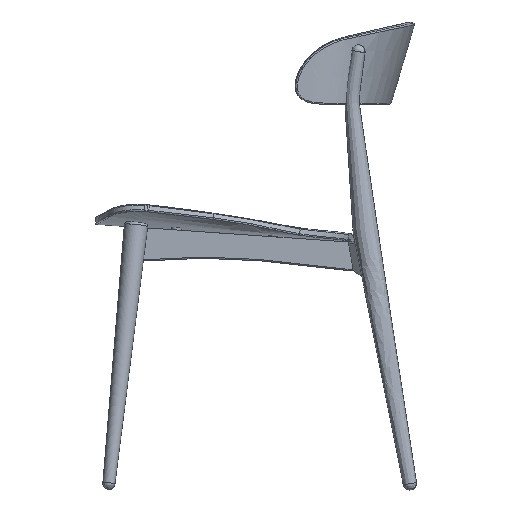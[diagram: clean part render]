
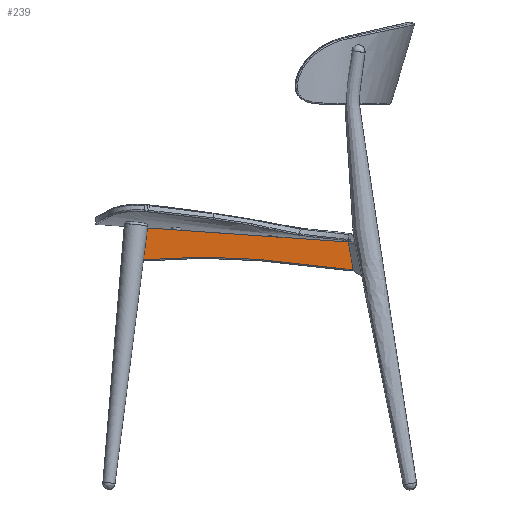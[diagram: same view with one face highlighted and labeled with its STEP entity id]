
A CAD part, left-side view. The second image highlights one B-rep face of the part: STEP entity #239.
In plain terms, the highlighted planar face has unit normal (-1, 0, 0).
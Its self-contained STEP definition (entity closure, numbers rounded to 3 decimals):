
#30=PLANE($,#4218);
#239=ADVANCED_FACE($,(#498),#30,.T.);
#498=FACE_OUTER_BOUND($,#757,.T.);
#757=EDGE_LOOP($,(#1605,#1606,#1607,#1608,#1609,#1610,#1611,#1612));
#1605=ORIENTED_EDGE($,*,*,#2539,.T.);
#1606=ORIENTED_EDGE($,*,*,#2540,.T.);
#1607=ORIENTED_EDGE($,*,*,#2541,.T.);
#1608=ORIENTED_EDGE($,*,*,#2542,.T.);
#1609=ORIENTED_EDGE($,*,*,#2538,.F.);
#1610=ORIENTED_EDGE($,*,*,#2543,.T.);
#1611=ORIENTED_EDGE($,*,*,#2544,.T.);
#1612=ORIENTED_EDGE($,*,*,#2545,.T.);
#2538=EDGE_CURVE($,#3056,#3053,#3940,.T.);
#2539=EDGE_CURVE($,#3057,#3058,#3941,.T.);
#2540=EDGE_CURVE($,#3058,#3059,#3942,.T.);
#2541=EDGE_CURVE($,#3059,#3060,#3576,.T.);
#2542=EDGE_CURVE($,#3060,#3053,#3577,.T.);
#2543=EDGE_CURVE($,#3056,#3061,#3943,.T.);
#2544=EDGE_CURVE($,#3061,#3062,#3944,.T.);
#2545=EDGE_CURVE($,#3062,#3057,#3945,.T.);
#3053=VERTEX_POINT($,#40107);
#3056=VERTEX_POINT($,#40110);
#3057=VERTEX_POINT($,#40111);
#3058=VERTEX_POINT($,#40112);
#3059=VERTEX_POINT($,#40113);
#3060=VERTEX_POINT($,#40114);
#3061=VERTEX_POINT($,#40115);
#3062=VERTEX_POINT($,#40116);
#3576=(
BOUNDED_CURVE()
B_SPLINE_CURVE(2,(#39662,#39663,#39664),.UNSPECIFIED.,.F.,.F.)
B_SPLINE_CURVE_WITH_KNOTS((3,3),(0.,184.043),.UNSPECIFIED.)
CURVE()
GEOMETRIC_REPRESENTATION_ITEM()
RATIONAL_B_SPLINE_CURVE((1.,0.996,1.))
REPRESENTATION_ITEM($)
);
#3577=(
BOUNDED_CURVE()
B_SPLINE_CURVE(2,(#39665,#39666,#39667),.UNSPECIFIED.,.F.,.F.)
B_SPLINE_CURVE_WITH_KNOTS((3,3),(0.,148.894),.UNSPECIFIED.)
CURVE()
GEOMETRIC_REPRESENTATION_ITEM()
RATIONAL_B_SPLINE_CURVE((1.,1.,1.))
REPRESENTATION_ITEM($)
);
#3940=B_SPLINE_CURVE_WITH_KNOTS($,1,(#39656,#39657),.UNSPECIFIED.,.F.,.F.,
(2,2),(-3.493,0.),.UNSPECIFIED.);
#3941=B_SPLINE_CURVE_WITH_KNOTS($,1,(#39658,#39659),.UNSPECIFIED.,.F.,.F.,
(2,2),(-51.207,0.),.UNSPECIFIED.);
#3942=B_SPLINE_CURVE_WITH_KNOTS($,1,(#39660,#39661),.UNSPECIFIED.,.F.,.F.,
(2,2),(0.,3.324),.UNSPECIFIED.);
#3943=B_SPLINE_CURVE_WITH_KNOTS($,3,(#39668,#39669,#39670,#39671),.UNSPECIFIED.,
.F.,.F.,(4,4),(0.,0.),.UNSPECIFIED.);
#3944=B_SPLINE_CURVE_WITH_KNOTS($,1,(#39672,#39673),.UNSPECIFIED.,.F.,.F.,
(2,2),(0.,45.276),.UNSPECIFIED.);
#3945=B_SPLINE_CURVE_WITH_KNOTS($,1,(#39674,#39675),.UNSPECIFIED.,.F.,.F.,
(2,2),(-327.928,0.),.UNSPECIFIED.);
#4218=AXIS2_PLACEMENT_3D($,#39900,#4265,$);
#4265=DIRECTION($,(-1.,0.,0.));
#39656=CARTESIAN_POINT($,(-126.,-394.846,354.766));
#39657=CARTESIAN_POINT($,(-126.,-391.361,355.009));
#39658=CARTESIAN_POINT($,(-126.,-59.831,422.402));
#39659=CARTESIAN_POINT($,(-126.,-56.259,371.32));
#39660=CARTESIAN_POINT($,(-126.,-56.259,371.32));
#39661=CARTESIAN_POINT($,(-126.,-59.575,371.088));
#39662=CARTESIAN_POINT($,(-126.,-59.575,371.088));
#39663=CARTESIAN_POINT($,(-126.,-151.468,379.193));
#39664=CARTESIAN_POINT($,(-126.,-243.389,371.399));
#39665=CARTESIAN_POINT($,(-126.,-243.389,371.399));
#39666=CARTESIAN_POINT($,(-126.,-317.586,365.108));
#39667=CARTESIAN_POINT($,(-126.,-391.361,355.009));
#39668=CARTESIAN_POINT($,(-126.,-394.846,354.766));
#39669=CARTESIAN_POINT($,(-126.,-394.841,354.823));
#39670=CARTESIAN_POINT($,(-126.,-394.833,354.881));
#39671=CARTESIAN_POINT($,(-126.,-394.823,354.938));
#39672=CARTESIAN_POINT($,(-126.,-394.823,354.938));
#39673=CARTESIAN_POINT($,(-126.,-386.961,399.527));
#39674=CARTESIAN_POINT($,(-126.,-386.961,399.527));
#39675=CARTESIAN_POINT($,(-126.,-59.831,422.402));
#39900=CARTESIAN_POINT($,(-126.,-52.873,354.089));
#40107=CARTESIAN_POINT($,(-126.,-391.361,355.009));
#40110=CARTESIAN_POINT($,(-126.,-394.846,354.766));
#40111=CARTESIAN_POINT($,(-126.,-59.831,422.402));
#40112=CARTESIAN_POINT($,(-126.,-56.259,371.32));
#40113=CARTESIAN_POINT($,(-126.,-59.575,371.088));
#40114=CARTESIAN_POINT($,(-126.,-243.389,371.399));
#40115=CARTESIAN_POINT($,(-126.,-394.823,354.938));
#40116=CARTESIAN_POINT($,(-126.,-386.961,399.527));
